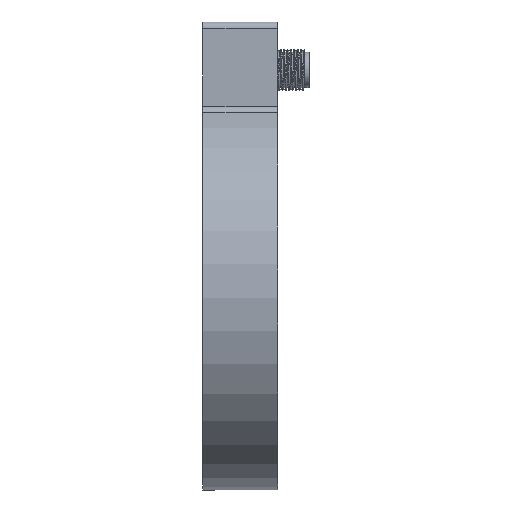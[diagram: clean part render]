
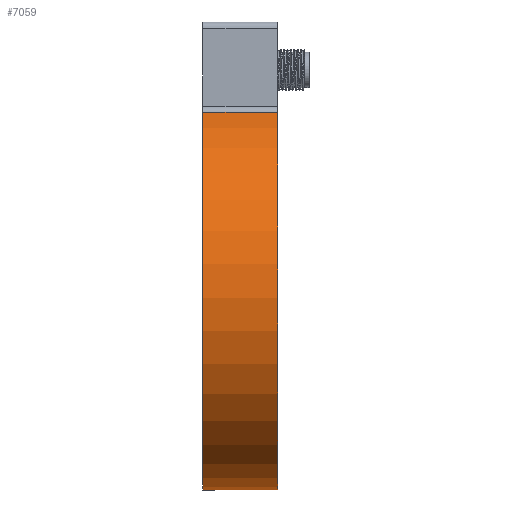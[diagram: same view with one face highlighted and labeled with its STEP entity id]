
A CAD part, left-side view. The second image highlights one B-rep face of the part: STEP entity #7059.
In plain terms, the highlighted cylindrical face has radius 57.5 mm (diameter 115 mm), a partial arc.
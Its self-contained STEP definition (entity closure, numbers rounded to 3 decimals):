
#851=FACE_OUTER_BOUND('',#1365,.T.);
#1365=EDGE_LOOP('',(#6445,#6446,#6447,#6448));
#1629=LINE('',#18460,#1892);
#1630=LINE('',#18462,#1893);
#1892=VECTOR('',#10428,1000.);
#1893=VECTOR('',#10431,1000.);
#2480=CIRCLE('',#7992,57.5);
#2561=CIRCLE('',#8112,57.5);
#3269=VERTEX_POINT('',#18192);
#3270=VERTEX_POINT('',#18194);
#3362=VERTEX_POINT('',#18437);
#3363=VERTEX_POINT('',#18439);
#4273=EDGE_CURVE('',#3269,#3270,#2480,.T.);
#4386=EDGE_CURVE('',#3362,#3363,#2561,.T.);
#4397=EDGE_CURVE('',#3362,#3270,#1629,.T.);
#4398=EDGE_CURVE('',#3269,#3363,#1630,.T.);
#6445=ORIENTED_EDGE('',*,*,#4386,.F.);
#6446=ORIENTED_EDGE('',*,*,#4397,.T.);
#6447=ORIENTED_EDGE('',*,*,#4273,.F.);
#6448=ORIENTED_EDGE('',*,*,#4398,.T.);
#6694=CYLINDRICAL_SURFACE('',#8123,57.5);
#7059=ADVANCED_FACE('',(#851),#6694,.T.);
#7992=AXIS2_PLACEMENT_3D('',#18195,#10129,#10130);
#8112=AXIS2_PLACEMENT_3D('',#18440,#10401,#10402);
#8123=AXIS2_PLACEMENT_3D('',#18463,#10432,#10433);
#10129=DIRECTION('center_axis',(0.,-1.,0.));
#10130=DIRECTION('ref_axis',(0.,0.,
-1.));
#10401=DIRECTION('center_axis',(0.,1.,0.));
#10402=DIRECTION('ref_axis',(1.,0.,0.));
#10428=DIRECTION('',(0.,-1.,0.));
#10431=DIRECTION('',(0.,1.,0.));
#10432=DIRECTION('center_axis',(0.,-1.,0.));
#10433=DIRECTION('ref_axis',(0.,0.,
-1.));
#18192=CARTESIAN_POINT('',(-21.261,0.,53.425));
#18194=CARTESIAN_POINT('',(21.261,0.,53.425));
#18195=CARTESIAN_POINT('Origin',(0.,0.,0.));
#18437=CARTESIAN_POINT('',(21.261,22.,53.425));
#18439=CARTESIAN_POINT('',(-21.261,22.,53.425));
#18440=CARTESIAN_POINT('Origin',(0.,22.,0.));
#18460=CARTESIAN_POINT('',(21.261,22.,53.425));
#18462=CARTESIAN_POINT('',(-21.261,22.,53.425));
#18463=CARTESIAN_POINT('Origin',(0.,22.,0.));
